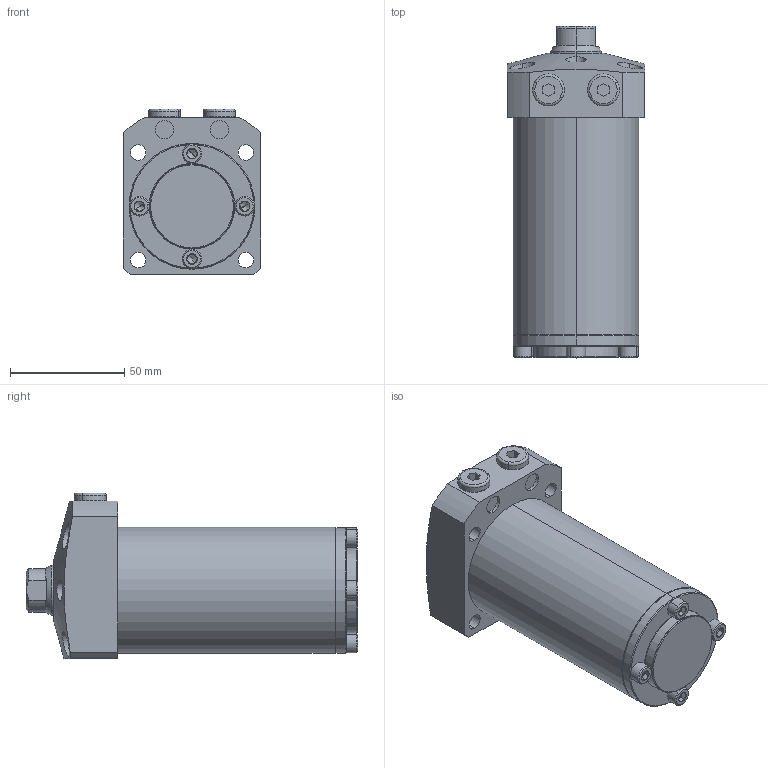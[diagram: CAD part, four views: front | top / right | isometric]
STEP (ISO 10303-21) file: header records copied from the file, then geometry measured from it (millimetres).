
FILE_DESCRIPTION (( 'STEP AP203' ), '1' );
FILE_NAME ('680550-CA-076.step', '2016-11-02T03:23:18', ( 'wxp' ), ( '' ), 'SwSTEP 2.0', 'SolidWorks 2011', '' );
FILE_SCHEMA (( 'CONFIG_CONTROL_DESIGN' ));
Length unit declared in the file: millimetre
Products named in the file (7): 680550-CA-076; 葩璃 68055-CA-51-6^680550-CA-076; 葩璃 68055-CA-51-5^680550-CA-076; 葩璃 68055-CA-51-4^680550-CA-076; 葩璃 68055-CA-51-3^680550-CA-076; 葩璃 68055-CA-51-2^680550-CA-076; 68055-CA-51-1^680550-CA-076
Assembly tree (13 placements, depth 2):
  680550-CA-076
    葩璃 68055-CA-51-3^680550-CA-076
    葩璃 68055-CA-51-2^680550-CA-076
    葩璃 68055-CA-51-4^680550-CA-076  x4
    葩璃 68055-CA-51-5^680550-CA-076  x4
    葩璃 68055-CA-51-6^680550-CA-076  x2
    68055-CA-51-1^680550-CA-076
Bounding box: 60 x 145 x 72.5 mm (x, y, z)
Volume: 342322.8 mm3; surface area: 58591.9 mm2
Topology: 13 solids, 13 shells, 415 faces, 797 edges, 428 vertices
Faces by surface type: plane 174, cone 120, cylinder 105, torus 16
Entity records: 7011 total; most frequent: CARTESIAN_POINT 1679, DIRECTION 1017, ORIENTED_EDGE 830, AXIS2_PLACEMENT_3D 425, EDGE_CURVE 415, VERTEX_POINT 246, EDGE_LOOP 241, CIRCLE 206
